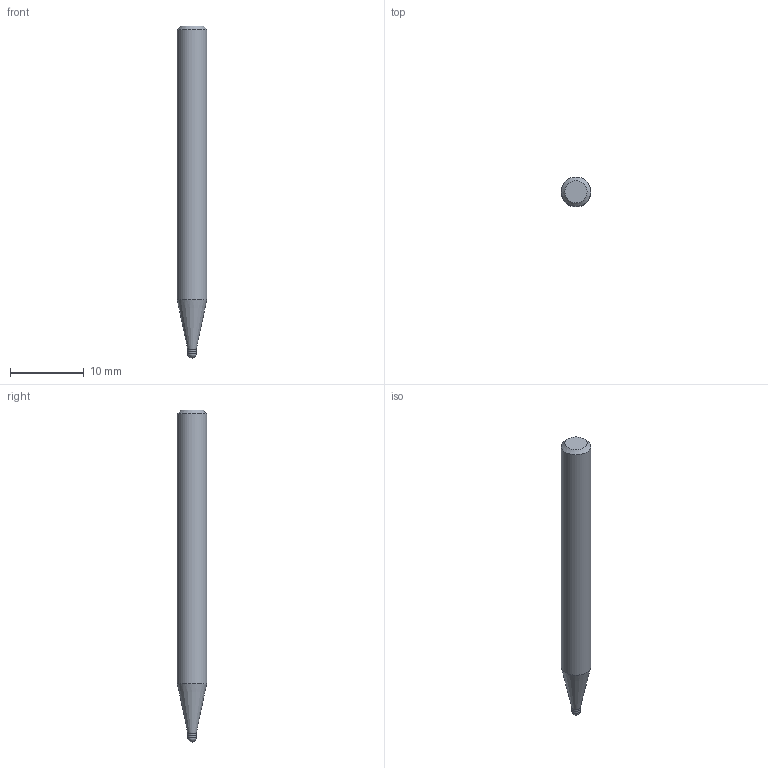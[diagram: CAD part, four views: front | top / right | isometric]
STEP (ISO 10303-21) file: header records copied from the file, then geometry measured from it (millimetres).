
FILE_DESCRIPTION((''),'2;1');
FILE_NAME('C:\Users\nsx150\AppData\Local\Temp\Mastercam 2021\ARV7HD45SN\TEMP.step','2023-06-13T16:35:54',(''),(''),'STEP Write','Mastercam 2021 ... CNC Software, Inc.','');
FILE_SCHEMA(('AUTOMOTIVE_DESIGN'));
Length unit declared in the file: millimetre
Products named in the file (1): None
Bounding box: 4 x 4 x 45 mm (x, y, z)
Volume: 504.3 mm3; surface area: 536.8 mm2
Topology: 2 solids, 2 shells, 9 faces, 14 edges, 8 vertices
Faces by surface type: plane 3, cylinder 3, cone 2, sphere 1
Full cylindrical faces by diameter (mm): 1.15 x1, 1.2 x1, 4 x1
Entity records: 211 total; most frequent: DIRECTION 36, CARTESIAN_POINT 25, AXIS2_PLACEMENT_3D 18, ORIENTED_EDGE 14, EDGE_LOOP 14, STYLED_ITEM 12, ADVANCED_FACE 9, FACE_BOUND 8
